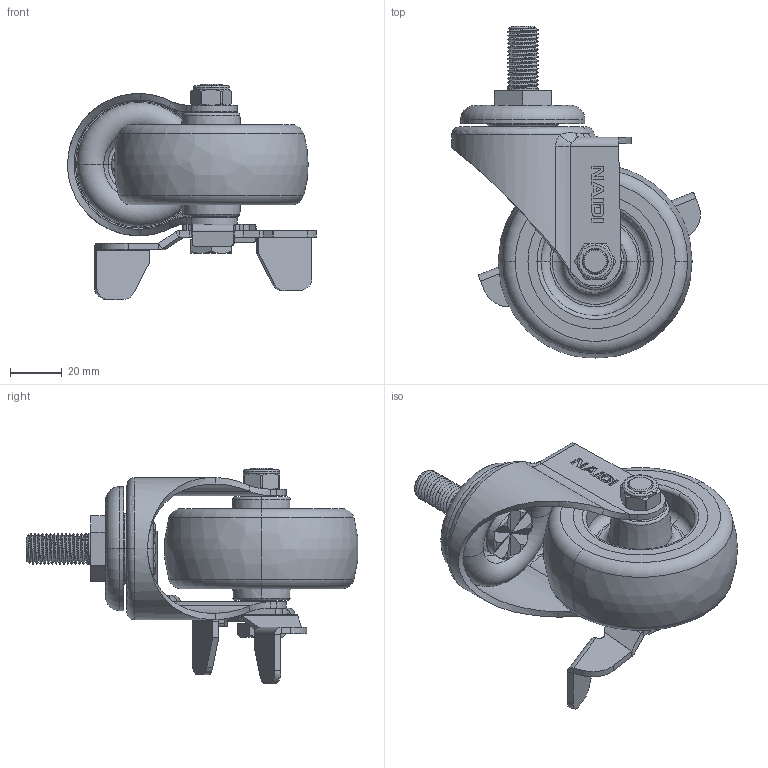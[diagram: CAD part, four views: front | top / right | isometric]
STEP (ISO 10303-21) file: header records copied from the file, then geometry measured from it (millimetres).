
FILE_DESCRIPTION((''),'2;1');
FILE_NAME('C52143C_ASM','2024-05-22T',('Lenovo'),(''),'PRO/ENGINEER BY PARAMETRIC TECHNOLOGY CORPORATION, 2010280','PRO/ENGINEER BY PARAMETRIC TECHNOLOGY CORPORATION, 2010280','');
FILE_SCHEMA(('CONFIG_CONTROL_DESIGN'));
Length unit declared in the file: millimetre
Products named in the file (11): 550-23M12X25; 500-36; C5210-211; C5213-311; C523-964; 500-54; 503-15; 500-14; 502-33; 570-34; C52143C_ASM
Assembly tree (12 placements, depth 2):
  C52143C_ASM
    550-23M12X25
    500-36  x2
    C5210-211  x2
    C5213-311
    C523-964
    500-54
    503-15
    500-14
    502-33
    570-34
Bounding box: 96.17 x 128.3 x 83.14 mm (x, y, z)
Volume: 96199.1 mm3; surface area: 76895.3 mm2
Topology: 12 solids, 13 shells, 516 faces, 1213 edges, 744 vertices
Faces by surface type: plane 219, cylinder 164, torus 54, cone 44, bspline 35
Entity records: 19631 total; most frequent: CARTESIAN_POINT 8265, ORIENTED_EDGE 2318, DIRECTION 2304, EDGE_CURVE 1159, AXIS2_PLACEMENT_3D 856, VERTEX_POINT 712, VECTOR 592, LINE 592
